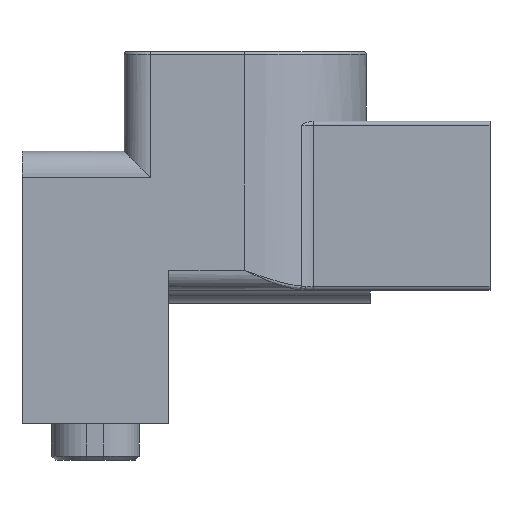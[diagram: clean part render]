
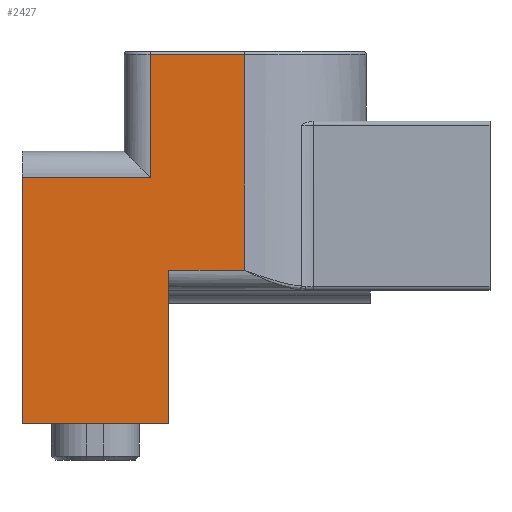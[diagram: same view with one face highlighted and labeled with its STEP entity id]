
A CAD part, left-side view. The second image highlights one B-rep face of the part: STEP entity #2427.
In plain terms, the highlighted planar face has unit normal (-1, 0, 0).
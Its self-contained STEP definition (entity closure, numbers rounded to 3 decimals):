
#436=DIRECTION('',(0.,1.,0.));
#437=VECTOR('',#436,5.8);
#438=CARTESIAN_POINT('',(-9.3,19.5,58.));
#439=LINE('',#438,#437);
#457=CARTESIAN_POINT('',(-9.3,19.5,58.));
#463=DIRECTION('',(0.,0.,1.));
#464=VECTOR('',#463,11.7);
#465=CARTESIAN_POINT('',(-9.3,25.3,46.3));
#466=LINE('',#465,#464);
#467=DIRECTION('',(0.,-1.,0.));
#468=VECTOR('',#467,11.2);
#469=CARTESIAN_POINT('',(-9.3,36.5,46.3));
#470=LINE('',#469,#468);
#471=DIRECTION('',(0.,0.,-1.));
#472=VECTOR('',#471,18.8);
#473=CARTESIAN_POINT('',(-9.3,36.5,65.1));
#474=LINE('',#473,#472);
#479=DIRECTION('',(0.,-1.,0.));
#480=VECTOR('',#479,9.8);
#481=CARTESIAN_POINT('',(-9.3,36.5,65.1));
#482=LINE('',#481,#480);
#633=DIRECTION('',(0.,0.,-1.));
#634=VECTOR('',#633,16.5);
#635=CARTESIAN_POINT('',(-9.3,19.5,74.5));
#636=LINE('',#635,#634);
#717=DIRECTION('',(0.,-1.,0.));
#718=VECTOR('',#717,7.2);
#719=CARTESIAN_POINT('',(-9.3,26.7,74.5));
#720=LINE('',#719,#718);
#775=DIRECTION('',(0.,0.,1.));
#776=VECTOR('',#775,9.4);
#777=CARTESIAN_POINT('',(-9.3,26.7,65.1));
#778=LINE('',#777,#776);
#1448=CARTESIAN_POINT('',(-9.3,36.5,46.3));
#1450=VERTEX_POINT('',#1448);
#1546=CARTESIAN_POINT('',(-9.3,36.5,65.1));
#1547=CARTESIAN_POINT('',(-9.3,26.7,65.1));
#1548=VERTEX_POINT('',#1546);
#1549=VERTEX_POINT('',#1547);
#1632=VERTEX_POINT('',#457);
#1699=CARTESIAN_POINT('',(-9.3,25.3,58.));
#1701=VERTEX_POINT('',#1699);
#1704=CARTESIAN_POINT('',(-9.3,25.3,46.3));
#1705=VERTEX_POINT('',#1704);
#1734=CARTESIAN_POINT('',(-9.3,19.5,74.5));
#1735=VERTEX_POINT('',#1734);
#1754=CARTESIAN_POINT('',(-9.3,26.7,74.5));
#1756=VERTEX_POINT('',#1754);
#2407=CARTESIAN_POINT('',(-9.3,0.,0.));
#2408=DIRECTION('',(1.,0.,0.));
#2409=DIRECTION('',(0.,0.,-1.));
#2410=AXIS2_PLACEMENT_3D('',#2407,#2408,#2409);
#2411=PLANE('',#2410);
#2413=ORIENTED_EDGE('',*,*,#2412,.T.);
#2415=ORIENTED_EDGE('',*,*,#2414,.T.);
#2417=ORIENTED_EDGE('',*,*,#2416,.T.);
#2419=ORIENTED_EDGE('',*,*,#2418,.T.);
#2420=ORIENTED_EDGE('',*,*,#2398,.T.);
#2421=ORIENTED_EDGE('',*,*,#2175,.F.);
#2422=ORIENTED_EDGE('',*,*,#2144,.F.);
#2424=ORIENTED_EDGE('',*,*,#2423,.F.);
#2425=EDGE_LOOP('',(#2413,#2415,#2417,#2419,#2420,#2421,#2422,#2424));
#2426=FACE_OUTER_BOUND('',#2425,.F.);
#2427=ADVANCED_FACE('',(#2426),#2411,.F.);
#2144=EDGE_CURVE('',#1450,#1705,#470,.T.);
#2175=EDGE_CURVE('',#1705,#1701,#466,.T.);
#2398=EDGE_CURVE('',#1632,#1701,#439,.T.);
#2412=EDGE_CURVE('',#1548,#1549,#482,.T.);
#2414=EDGE_CURVE('',#1549,#1756,#778,.T.);
#2416=EDGE_CURVE('',#1756,#1735,#720,.T.);
#2418=EDGE_CURVE('',#1735,#1632,#636,.T.);
#2423=EDGE_CURVE('',#1548,#1450,#474,.T.);
